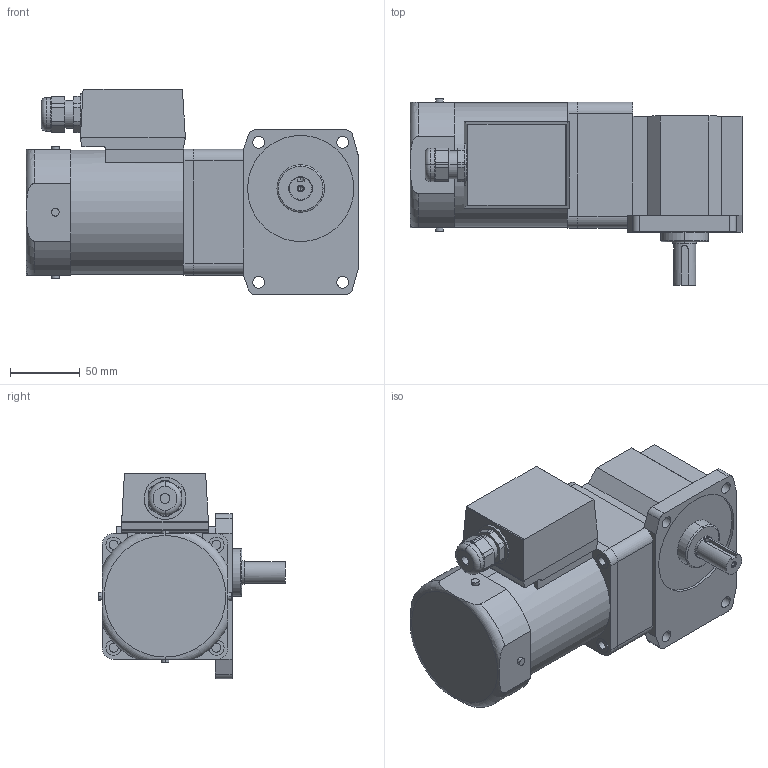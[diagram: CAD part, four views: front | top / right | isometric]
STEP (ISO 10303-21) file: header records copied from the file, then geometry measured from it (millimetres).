
FILE_DESCRIPTION(('starvars output'),'2;1');
FILE_NAME('5RK60GE-CW2TE _ 5GE180RAA.stp','13:51:49 2015/05/11',( 'Thomas Industrial Network Germany GmbH'),( 'Thomas Industrial Network Germany GmbH'),'unknown preprocess','ACIS' ,'unknown authorization');
FILE_SCHEMA(('AUTOMOTIVE_DESIGN_CC2 {UNKNOWN IMPLEMENTATION LEVEL}'));
Length unit declared in the file: millimetre
Products named in the file (1): PRODUCT_ID_245
Bounding box: 237.5 x 133.4 x 147 mm (x, y, z)
Volume: 1891764.8 mm3; surface area: 121639.6 mm2
Topology: 1 solids, 1 shells, 231 faces, 578 edges, 376 vertices
Faces by surface type: plane 112, cylinder 101, torus 14, cone 4
Entity records: 8415 total; most frequent: CARTESIAN_POINT 1423, ORIENTED_EDGE 1152, DIRECTION 920, EDGE_CURVE 576, VERTEX_POINT 376, VECTOR 322, LINE 322, AXIS2_PLACEMENT_3D 299
